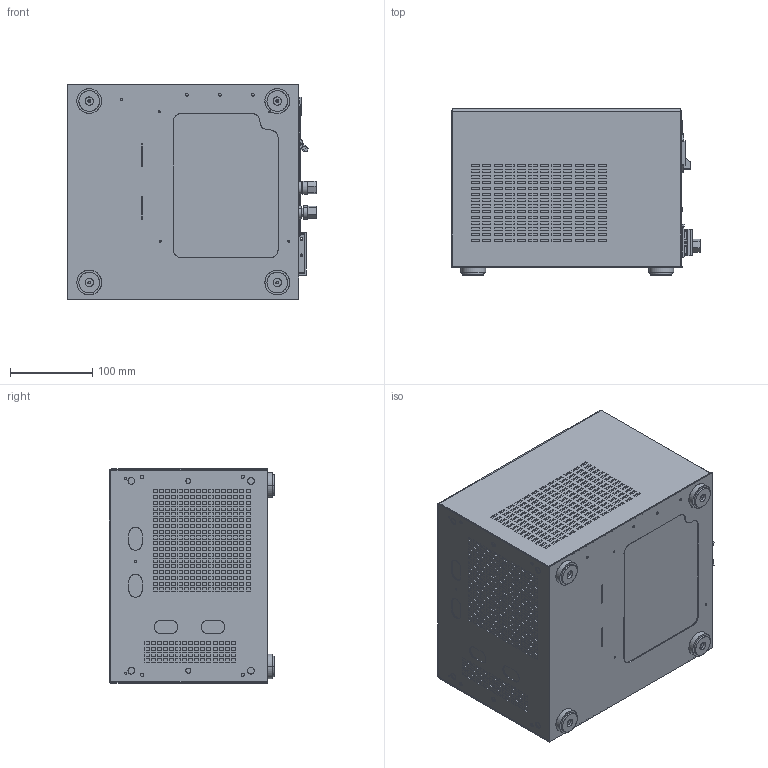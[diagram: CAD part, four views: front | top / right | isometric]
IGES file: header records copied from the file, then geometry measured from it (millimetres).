
Start section: SolidWorks IGES file using analytic representation for surfaces
Global section: file name: D:\萇埭\俋楷訧蹋\ePower_3D.IGS; native system: SolidWorks 2016; preprocessor: SolidWorks 2016; author: HIAPAD; date: 210806.155703; units: millimetre
Bounding box: 301.2 x 201 x 260.44 mm (x, y, z)
Surface area: 722041.2 mm2 (no closed solid volume)
Topology: 0 solids, 0 shells, 4957 faces, 31599 edges, 31599 vertices
Faces by surface type: bspline 4728, revolution 229
